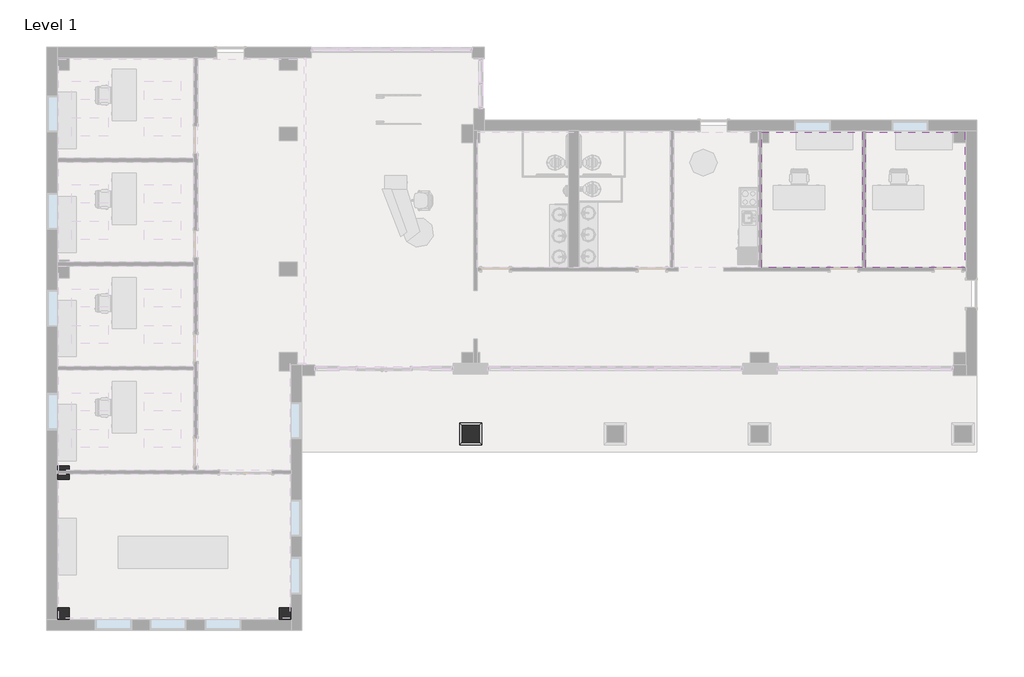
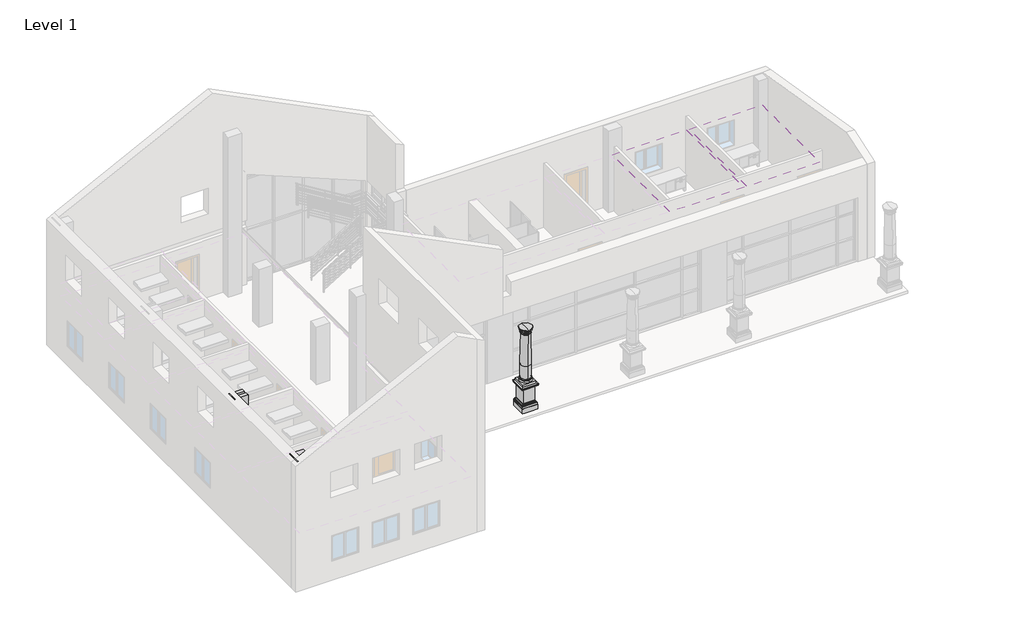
# One storey, part 4 of 8: 4 columns, 2 coverings.
"""IFC4 building model written with IfcOpenShell, lengths in millimetres."""

import ifcopenshell
import ifcopenshell.guid

model = None  # the IFC model being written
_history = None  # IfcOwnerHistory: only IFC2X3 demands one
_inside = {}  # id of a spatial element -> (the spatial element, [elements in it])
_under = {}  # id of a project, library or spatial element -> (it, [spatial elements below it])
_declared = {}  # id of a project -> (the project, [libraries it declares])
_typed = {}  # id of a type object -> (the type object, [elements of that type])
_made_of = {}  # id of a material, layer set ... -> (it, [elements and type objects made of it])


def new_model(schema):
    """Start an empty IFC model of exactly this schema.

    Asked for "IFC4X3", IfcOpenShell would pick the latest addendum, in which some entities
    have other attributes; the version numbers below select the first issue.
    IFC2X3 requires an IfcOwnerHistory on every rooted entity: one is made here for all.
    """
    global model, _history
    if schema == "IFC4X3":
        model = ifcopenshell.file(schema_version=(4, 3, 0, 0))
    else:
        model = ifcopenshell.file(schema=schema)
    _inside.clear()
    _under.clear()
    _declared.clear()
    _typed.clear()
    _made_of.clear()
    _history = None
    if model.schema == "IFC2X3":
        org = make("IfcOrganization", Name="unknown")
        user = make(
            "IfcPersonAndOrganization",
            ThePerson=make("IfcPerson", FamilyName="unknown"),
            TheOrganization=org,
        )
        app = make(
            "IfcApplication",
            ApplicationDeveloper=org,
            Version="unknown",
            ApplicationFullName="unknown",
            ApplicationIdentifier="unknown",
        )
        _history = make(
            "IfcOwnerHistory",
            OwningUser=user,
            OwningApplication=app,
            ChangeAction="ADDED",
            CreationDate=0,
        )
    return model


def make(cls, **values):
    """One entity of the class cls with the attributes given. An attribute that is None is left unset."""
    return model.create_entity(
        cls, **{name: value for name, value in values.items() if value is not None}
    )


def rooted(cls, **values):
    """An entity with a GlobalId (a new one), such as an element, a storey or a relation."""
    return make(cls, GlobalId=ifcopenshell.guid.new(), OwnerHistory=_history, **values)


def si_unit(unit_type, name, prefix=None):
    """IfcSIUnit, for example si_unit("LENGTHUNIT", "METRE", prefix="MILLI")."""
    return make("IfcSIUnit", UnitType=unit_type, Prefix=prefix, Name=name)


def assignment(units):
    """IfcUnitAssignment: the units of a project."""
    return None if units is None else make("IfcUnitAssignment", Units=units)


def point(xyz):
    """IfcCartesianPoint."""
    return None if xyz is None else make("IfcCartesianPoint", Coordinates=xyz)


def direction(xyz):
    """IfcDirection."""
    return None if xyz is None else make("IfcDirection", DirectionRatios=xyz)


def frame(location, z_axis=None, x_axis=None):
    """IfcAxis2Placement3D, a coordinate frame: its origin and axes. An axis left out is left unset."""
    return make(
        "IfcAxis2Placement3D",
        Location=point(location),
        Axis=direction(z_axis),
        RefDirection=direction(x_axis),
    )


def origin():
    """The frame at (0, 0, 0) with its axes left unset."""
    return frame((0.0, 0.0, 0.0))


def place(relative_to, where):
    """IfcLocalPlacement: puts the frame where relative to a parent placement (None: the world)."""
    return make(
        "IfcLocalPlacement", PlacementRelTo=relative_to, RelativePlacement=where
    )


def context(
    kind, dimensions, precision=None, world=None, true_north=None, identifier=None
):
    """IfcGeometricRepresentationContext, for example the 3D "Model" context."""
    return make(
        "IfcGeometricRepresentationContext",
        ContextIdentifier=identifier,
        ContextType=kind,
        CoordinateSpaceDimension=dimensions,
        Precision=precision,
        WorldCoordinateSystem=world,
        TrueNorth=true_north,
    )


def project(units=None, contexts=None):
    """IfcProject with its units and contexts."""
    return rooted(
        "IfcProject",
        Name="project",
        RepresentationContexts=contexts,
        UnitsInContext=assignment(units),
    )


def spatial(cls, under=None, at=None, **own):
    """A site, building, storey or space (cls), placed at a placement, below another one or the project."""
    s = rooted(cls, ObjectPlacement=at, **own)
    if under is not None:
        _under.setdefault(under.id(), (under, []))[1].append(s)
    return s


def polyline(points):
    """IfcPolyline through the points."""
    return make("IfcPolyline", Points=[point(p) for p in points])


def circle_curve(where, radius):
    """IfcCircle in the frame where."""
    return make("IfcCircle", Position=where, Radius=radius)


def ellipse_curve(where, semi_axis1, semi_axis2):
    """IfcEllipse in the frame where."""
    return make(
        "IfcEllipse", Position=where, SemiAxis1=semi_axis1, SemiAxis2=semi_axis2
    )


def trimmed(basis, trim1, trim2, sense, master):
    """IfcTrimmedCurve: the piece of a basis curve between two trims."""
    return make(
        "IfcTrimmedCurve",
        BasisCurve=basis,
        Trim1=trim1,
        Trim2=trim2,
        SenseAgreement=sense,
        MasterRepresentation=master,
    )


def outline(outer, holes=None, kind="AREA"):
    """IfcArbitraryClosedProfileDef: a profile drawn as a closed curve; with holes, ...WithVoids."""
    if holes is None:
        return make("IfcArbitraryClosedProfileDef", ProfileType=kind, OuterCurve=outer)
    return make(
        "IfcArbitraryProfileDefWithVoids",
        ProfileType=kind,
        OuterCurve=outer,
        InnerCurves=holes,
    )


def extrude(swept, where, along, depth):
    """IfcExtrudedAreaSolid: the profile swept, set in the frame where, extruded along a direction by depth."""
    return make(
        "IfcExtrudedAreaSolid",
        SweptArea=swept,
        Position=where,
        ExtrudedDirection=direction(along),
        Depth=depth,
    )


def faces_of(points, faces, orient=None, outer=None):
    """IfcFace entities. A face is a list of loops; a loop is a list of indices into points, from 0.

    orient and outer hold one flag for each loop. By default every Orientation is true, the
    first loop of a face is its IfcFaceOuterBound and the others are IfcFaceBound.
    """
    made = []
    for i, loops in enumerate(faces):
        bounds = []
        for j, loop in enumerate(loops):
            is_outer = j == 0 if outer is None else outer[i][j]
            bounds.append(
                make(
                    "IfcFaceOuterBound" if is_outer else "IfcFaceBound",
                    Bound=make("IfcPolyLoop", Polygon=[points[k] for k in loop]),
                    Orientation=True if orient is None else orient[i][j],
                )
            )
        made.append(make("IfcFace", Bounds=bounds))
    return made


def faceted_brep(points, faces, orient=None, outer=None, voids=None):
    """IfcFacetedBrep: a solid bounded by flat faces; with voids (closed shells), ...WithVoids."""
    shared = [point(p) for p in points]
    hull = make("IfcClosedShell", CfsFaces=faces_of(shared, faces, orient, outer))
    if voids is None:
        return make("IfcFacetedBrep", Outer=hull)
    return make(
        "IfcFacetedBrepWithVoids",
        Outer=hull,
        Voids=[
            make(cls, CfsFaces=faces_of(shared, fs, o, b)) for cls, fs, o, b in voids
        ],
    )


def shape(context_of_items, identifier, shape_type, items):
    """IfcShapeRepresentation: the items that make up one representation, for example the "Body"."""
    return make(
        "IfcShapeRepresentation",
        ContextOfItems=context_of_items,
        RepresentationIdentifier=identifier,
        RepresentationType=shape_type,
        Items=items,
    )


def made_of(thing, what):
    """Note that an element or type object is made of a material, layer set ...; save() writes the relation."""
    if what is not None:
        _made_of.setdefault(what.id(), (what, []))[1].append(thing)
    return thing


def element(
    cls,
    number,
    at=None,
    inside=None,
    cuts=None,
    type_object=None,
    material=None,
    context=None,
    identifier="Body",
    shape_type=None,
    held_by="IfcProductDefinitionShape",
    body=None,
    shapes=None,
    **own,
):
    """One element of the class cls, such as IfcWall. Its Tag is "e" and its number.

    at: its placement. inside: the storey or other place that contains it. cuts: it is an
    opening in that element (IfcRelVoidsElement). A single representation is given by context,
    identifier, shape_type and body (its items); several are given by shapes. held_by: the class
    of the entity that holds the representations. save() writes the other relations.
    """
    e = rooted(cls, Tag="e%d" % number, ObjectPlacement=at, **own)
    if body is not None:
        shapes = [shape(context, identifier, shape_type, body)]
    if shapes is not None:
        e.Representation = make(held_by, Representations=shapes)
    if inside is not None:
        _inside.setdefault(inside.id(), (inside, []))[1].append(e)
    if cuts is not None:
        rooted(
            "IfcRelVoidsElement", RelatingBuildingElement=cuts, RelatedOpeningElement=e
        )
    if type_object is not None:
        _typed.setdefault(type_object.id(), (type_object, []))[1].append(e)
    return made_of(e, material)


def aggregate(whole, parts):
    """IfcRelAggregates: a whole, such as a stair, and the parts it consists of."""
    return rooted("IfcRelAggregates", RelatingObject=whole, RelatedObjects=parts)


def save(model, path):
    """Write the relations noted so far, then the file.

    IfcRelAggregates (storeys below a building ...), IfcRelContainedInSpatialStructure (elements
    in a storey), IfcRelDefinesByType, IfcRelAssociatesMaterial and IfcRelDeclares: one each for
    every whole, place, type object, material and project.
    """
    for whole, parts in _under.values():
        aggregate(whole, parts)
    for where, things in _inside.values():
        rooted(
            "IfcRelContainedInSpatialStructure",
            RelatedElements=things,
            RelatingStructure=where,
        )
    for kind, things in _typed.values():
        rooted("IfcRelDefinesByType", RelatedObjects=things, RelatingType=kind)
    for what, things in _made_of.values():
        rooted("IfcRelAssociatesMaterial", RelatedObjects=things, RelatingMaterial=what)
    for by, libraries in _declared.values():
        rooted("IfcRelDeclares", RelatingContext=by, RelatedDefinitions=libraries)
    model.write(path)


def plane_surface(at):
    """IfcPlane: the flat surface through the origin of the frame at, square to its z axis."""
    return make("IfcPlane", Position=at)


def cylinder_surface(at, radius):
    """IfcCylindricalSurface: all points at the distance radius from the z axis of the frame at."""
    return make("IfcCylindricalSurface", Position=at, Radius=radius)


def revolved_surface(curve, axis_point, axis_direction):
    """IfcSurfaceOfRevolution: the curve turned about the line through axis_point along axis_direction."""
    return make(
        "IfcSurfaceOfRevolution",
        SweptCurve=make("IfcArbitraryOpenProfileDef", ProfileType="CURVE", Curve=curve),
        AxisPosition=make("IfcAxis1Placement", Location=point(axis_point), Axis=direction(axis_direction)),
    )


def advanced_brep(points, edges, surfaces, faces):
    """IfcAdvancedBrep: a solid bounded by faces that lie on surfaces and meet in shared edges.

    An edge is (start, end): straight between two places in points (the first is 0);
    or (start, end, curve); or (start, end, curve, False) where it runs against its curve.
    A face is (place in surfaces, loops), or (place, loops, False) where it looks against
    its surface's normal. A loop lists edges by number (the first is 1), with a minus sign
    where the edge is run from its end to its start. The first loop is the outer one.
    """
    corners = [point(p) for p in points]
    vertices = [make("IfcVertexPoint", VertexGeometry=c) for c in corners]
    made = []
    for start, end, *more in edges:
        made.append(
            make(
                "IfcEdgeCurve",
                EdgeStart=vertices[start],
                EdgeEnd=vertices[end],
                EdgeGeometry=more[0] if more else make("IfcPolyline", Points=[corners[start], corners[end]]),
                SameSense=more[1] if len(more) > 1 else True,
            )
        )
    hull = []
    for where, loops, *sense in faces:
        bounds = []
        for j, loop in enumerate(loops):
            ring = [make("IfcOrientedEdge", EdgeElement=made[abs(k) - 1], Orientation=k > 0) for k in loop]
            bounds.append(
                make(
                    "IfcFaceOuterBound" if j == 0 else "IfcFaceBound",
                    Bound=make("IfcEdgeLoop", EdgeList=ring),
                    Orientation=True,
                )
            )
        hull.append(make("IfcAdvancedFace", Bounds=bounds, FaceSurface=surfaces[where], SameSense=sense[0] if sense else True))
    return make("IfcAdvancedBrep", Outer=make("IfcClosedShell", CfsFaces=hull))


model = new_model("IFC4")

# Units and contexts
model_context = context("Model", 3, world=origin())
ifc_project = project(units=[si_unit("LENGTHUNIT", "METRE", prefix="MILLI")], contexts=[model_context])

# Site, building, storey
site = spatial("IfcSite", under=ifc_project)
building = spatial("IfcBuilding", under=site)
storey = spatial("IfcBuildingStorey", under=building, Name="Level 1", Elevation=0.0)

# Columns
placement = place(None, origin())
element("IfcColumn", 1, ObjectType="Doric Column : 16'  Height (10 2/3 x Dia.)", at=placement, inside=storey, context=model_context, shape_type="SolidModel", body=[
    extrude(outline(polyline([(529.1733448, -1720.0769576), (529.1733448, -2297.9269576), (-48.6766552, -2297.9269576), (-48.6766552, -1720.0769576), (529.1733448, -1720.0769576)])), frame((0.0, 0.0, 1117.6), z_axis=(0.0, 0.0, 1.0), x_axis=(1.0, 0.0, 0.0)), (0.0, 0.0, 1.0), 107.95),
    faceted_brep([(11.6483448, -2237.6019576, 1117.6), (-131.2266552, -2380.4769576, 1117.6), (611.7233448, -2380.4769576, 1117.6), (468.8483448, -2237.6019576, 1117.6), (11.6483448, -2237.6019576, 1003.3), (468.8483448, -2237.6019576, 1003.3), (-59.6345723, -2308.8848746, 1003.3), (540.1312619, -2308.8848746, 1003.3), (-93.1266552, -2342.3769576, 1028.7), (573.6233448, -2342.3769576, 1028.7), (-118.5266552, -2367.7769576, 1028.7), (599.0233448, -2367.7769576, 1028.7), (-118.5266552, -2367.7769576, 1092.2), (599.0233448, -2367.7769576, 1092.2), (-131.2266552, -2380.4769576, 1092.2), (611.7233448, -2380.4769576, 1092.2), (611.7233448, -1637.5269576, 1117.6), (468.8483448, -1780.4019576, 1117.6), (468.8483448, -1780.4019576, 1003.3), (540.1312619, -1709.1190405, 1003.3), (573.6233448, -1675.6269576, 1028.7), (599.0233448, -1650.2269576, 1028.7), (599.0233448, -1650.2269576, 1092.2), (611.7233448, -1637.5269576, 1092.2), (-131.2266552, -1637.5269576, 1117.6), (11.6483448, -1780.4019576, 1117.6), (11.6483448, -1780.4019576, 1003.3), (-59.6345723, -1709.1190405, 1003.3), (-93.1266552, -1675.6269576, 1028.7), (-118.5266552, -1650.2269576, 1028.7), (-118.5266552, -1650.2269576, 1092.2), (-131.2266552, -1637.5269576, 1092.2)], [[[0, 1, 2, 3]], [[4, 0, 3, 5]], [[6, 4, 5, 7]], [[8, 6, 7, 9]], [[10, 8, 9, 11]], [[12, 10, 11, 13]], [[14, 12, 13, 15]], [[1, 14, 15, 2]], [[3, 2, 16, 17]], [[5, 3, 17, 18]], [[7, 5, 18, 19]], [[9, 7, 19, 20]], [[11, 9, 20, 21]], [[13, 11, 21, 22]], [[15, 13, 22, 23]], [[2, 15, 23, 16]], [[17, 16, 24, 25]], [[18, 17, 25, 26]], [[19, 18, 26, 27]], [[20, 19, 27, 28]], [[21, 20, 28, 29]], [[22, 21, 29, 30]], [[23, 22, 30, 31]], [[16, 23, 31, 24]], [[25, 24, 1, 0]], [[26, 25, 0, 4]], [[27, 26, 4, 6]], [[28, 27, 6, 8]], [[29, 28, 8, 10]], [[30, 29, 10, 12]], [[31, 30, 12, 14]], [[24, 31, 14, 1]]]),
    advanced_brep(
    [(240.2483448, -2256.6519576, 1358.9), (240.2483448, -1761.3519576, 1358.9), (240.2483448, -1780.4019576, 1377.95), (240.2483448, -2237.6019576, 1377.95), (240.2483448, -1780.4019576, 1989.5041667), (240.2483448, -2237.6019576, 1989.5041667), (240.2483448, -2256.6519576, 1339.85), (240.2483448, -1761.3519576, 1339.85), (240.2483448, -2256.6519576, 1308.1), (240.2483448, -1761.3519576, 1308.1), (240.2483448, -2256.6519576, 1225.55), (240.2483448, -1761.3519576, 1225.55), (240.2483448, -2009.0019576, 1225.55), (240.2483448, -1808.9769576, 3479.3125), (240.2483448, -2209.0269576, 3479.3125), (240.2483448, -2301.1019576, 3714.2625601), (240.2483448, -1716.9019576, 3714.2625601), (240.2483448, -1716.9019576, 3733.3125), (240.2483448, -2301.1019576, 3733.3125), (240.2483448, -2009.0019576, 3733.3125), (240.2483448, -2282.0518974, 3695.2125), (240.2483448, -1735.9520177, 3695.2125), (240.2483448, -2278.8769576, 3695.2125), (240.2483448, -1739.1269576, 3695.2125), (240.2483448, -2278.8769576, 3644.4125), (240.2483448, -1739.1269576, 3644.4125), (240.2483448, -2272.5269576, 3644.4125), (240.2483448, -1745.4769576, 3644.4125), (240.2483448, -2228.0769576, 3599.9625), (240.2483448, -1789.9269576, 3599.9625), (240.2483448, -2228.0769576, 3580.9125), (240.2483448, -1789.9269576, 3580.9125), (240.2483448, -2209.0269576, 3580.9125), (240.2483448, -1808.9769576, 3580.9125), (240.2483448, -2209.0269576, 3498.3625), (240.2483448, -1808.9769576, 3498.3625), (240.2483448, -2228.0769576, 3498.3625), (240.2483448, -1789.9269576, 3498.3625), (240.2483448, -2228.0769576, 3479.3125), (240.2483448, -1789.9269576, 3479.3125)],
    [
        (0, 1, circle_curve(frame((240.2483448, -2009.0019576, 1358.9), z_axis=(0.0, 0.0, 1.0), x_axis=(0.0, 1.0, 0.0)), 247.65)),
        (1, 2, circle_curve(frame((240.2483448, -1761.3519576, 1377.95), z_axis=(-1.0, 0.0, 0.0), x_axis=(0.0, -1.0, 0.0)), 19.05)),
        (2, 3, circle_curve(frame((240.2483448, -2009.0019576, 1377.95), z_axis=(0.0, 0.0, -1.0), x_axis=(0.0, 1.0, 0.0)), 228.6)),
        (3, 0, circle_curve(frame((240.2483448, -2256.6519576, 1377.95), z_axis=(-1.0, 0.0, 0.0), x_axis=(0.0, 1.0, 0.0)), 19.05)),
        (2, 4),
        (4, 5, circle_curve(frame((240.2483448, -2009.0019576, 1989.5041667), z_axis=(0.0, 0.0, -1.0), x_axis=(0.0, 1.0, 0.0)), 228.6)),
        (5, 3),
        (2, 3, circle_curve(frame((240.2483448, -2009.0019576, 1377.95), z_axis=(0.0, 0.0, 1.0), x_axis=(0.0, 1.0, 0.0)), 228.6)),
        (5, 4, circle_curve(frame((240.2483448, -2009.0019576, 1989.5041667), z_axis=(0.0, 0.0, -1.0), x_axis=(0.0, 1.0, 0.0)), 228.6)),
        (1, 0, circle_curve(frame((240.2483448, -2009.0019576, 1358.9), z_axis=(0.0, 0.0, 1.0), x_axis=(0.0, 1.0, 0.0)), 247.65)),
        (6, 7, circle_curve(frame((240.2483448, -2009.0019576, 1339.85), z_axis=(0.0, 0.0, 1.0), x_axis=(0.0, 1.0, 0.0)), 247.65)),
        (7, 1),
        (0, 6),
        (7, 6, circle_curve(frame((240.2483448, -2009.0019576, 1339.85), z_axis=(0.0, 0.0, 1.0), x_axis=(0.0, 1.0, 0.0)), 247.65)),
        (8, 9, circle_curve(frame((240.2483448, -2009.0019576, 1308.1), z_axis=(0.0, 0.0, 1.0), x_axis=(0.0, 1.0, 0.0)), 247.65)),
        (9, 7, circle_curve(frame((240.2483448, -1761.3519576, 1323.975), z_axis=(1.0, 0.0, 0.0), x_axis=(0.0, -1.0, 0.0)), 15.875)),
        (6, 8, circle_curve(frame((240.2483448, -2256.6519576, 1323.975), z_axis=(1.0, 0.0, 0.0), x_axis=(0.0, 1.0, 0.0)), 15.875)),
        (9, 8, circle_curve(frame((240.2483448, -2009.0019576, 1308.1), z_axis=(0.0, 0.0, 1.0), x_axis=(0.0, 1.0, 0.0)), 247.65)),
        (10, 11, circle_curve(frame((240.2483448, -2009.0019576, 1225.55), z_axis=(0.0, 0.0, 1.0), x_axis=(0.0, 1.0, 0.0)), 247.65)),
        (11, 9, circle_curve(frame((240.2483448, -1761.3519576, 1266.825), z_axis=(1.0, 0.0, 0.0), x_axis=(0.0, -1.0, 0.0)), 41.275)),
        (8, 10, circle_curve(frame((240.2483448, -2256.6519576, 1266.825), z_axis=(1.0, 0.0, 0.0), x_axis=(0.0, 1.0, 0.0)), 41.275)),
        (11, 10, circle_curve(frame((240.2483448, -2009.0019576, 1225.55), z_axis=(0.0, 0.0, 1.0), x_axis=(0.0, 1.0, 0.0)), 247.65)),
        (12, 11),
        (10, 12),
        (4, 13),
        (13, 14, circle_curve(frame((240.2483448, -2009.0019576, 3479.3125), z_axis=(0.0, 0.0, -1.0), x_axis=(0.0, 1.0, 0.0)), 200.025)),
        (14, 5),
        (14, 13, circle_curve(frame((240.2483448, -2009.0019576, 3479.3125), z_axis=(0.0, 0.0, -1.0), x_axis=(0.0, 1.0, 0.0)), 200.025)),
        (15, 16, circle_curve(frame((240.2483448, -2009.0019576, 3714.2625601), z_axis=(0.0, 0.0, 1.0), x_axis=(0.0, 1.0, 0.0)), 292.1)),
        (16, 17),
        (17, 18, circle_curve(frame((240.2483448, -2009.0019576, 3733.3125), z_axis=(0.0, 0.0, -1.0), x_axis=(0.0, 1.0, 0.0)), 292.1)),
        (18, 15),
        (17, 19),
        (19, 18),
        (17, 18, circle_curve(frame((240.2483448, -2009.0019576, 3733.3125), z_axis=(0.0, 0.0, 1.0), x_axis=(0.0, 1.0, 0.0)), 292.1)),
        (16, 15, circle_curve(frame((240.2483448, -2009.0019576, 3714.2625601), z_axis=(0.0, 0.0, 1.0), x_axis=(0.0, 1.0, 0.0)), 292.1)),
        (20, 21, circle_curve(frame((240.2483448, -2009.0019576, 3695.2125), z_axis=(0.0, 0.0, 1.0), x_axis=(0.0, 1.0, 0.0)), 273.0499399)),
        (21, 16, circle_curve(frame((240.2483448, -1716.9019576, 3695.2125), z_axis=(-1.0, 0.0, 0.0), x_axis=(0.0, -1.0, 0.0)), 19.0500601)),
        (15, 20, circle_curve(frame((240.2483448, -2301.1019576, 3695.2125), z_axis=(-1.0, 0.0, 0.0), x_axis=(0.0, 1.0, 0.0)), 19.0500601)),
        (21, 20, circle_curve(frame((240.2483448, -2009.0019576, 3695.2125), z_axis=(0.0, 0.0, 1.0), x_axis=(0.0, 1.0, 0.0)), 273.0499399)),
        (22, 23, circle_curve(frame((240.2483448, -2009.0019576, 3695.2125), z_axis=(0.0, 0.0, 1.0), x_axis=(0.0, 1.0, 0.0)), 269.875)),
        (23, 21),
        (20, 22),
        (23, 22, circle_curve(frame((240.2483448, -2009.0019576, 3695.2125), z_axis=(0.0, 0.0, 1.0), x_axis=(0.0, 1.0, 0.0)), 269.875)),
        (24, 25, circle_curve(frame((240.2483448, -2009.0019576, 3644.4125), z_axis=(0.0, 0.0, 1.0), x_axis=(0.0, 1.0, 0.0)), 269.875)),
        (25, 23),
        (22, 24),
        (25, 24, circle_curve(frame((240.2483448, -2009.0019576, 3644.4125), z_axis=(0.0, 0.0, 1.0), x_axis=(0.0, 1.0, 0.0)), 269.875)),
        (26, 27, circle_curve(frame((240.2483448, -2009.0019576, 3644.4125), z_axis=(0.0, 0.0, 1.0), x_axis=(0.0, 1.0, 0.0)), 263.525)),
        (27, 25),
        (24, 26),
        (27, 26, circle_curve(frame((240.2483448, -2009.0019576, 3644.4125), z_axis=(0.0, 0.0, 1.0), x_axis=(0.0, 1.0, 0.0)), 263.525)),
        (28, 29, circle_curve(frame((240.2483448, -2009.0019576, 3599.9625), z_axis=(0.0, 0.0, 1.0), x_axis=(0.0, 1.0, 0.0)), 219.075)),
        (29, 27, circle_curve(frame((240.2483448, -1789.9269576, 3644.4125), z_axis=(1.0, 0.0, 0.0), x_axis=(0.0, -1.0, 0.0)), 44.45)),
        (26, 28, circle_curve(frame((240.2483448, -2228.0769576, 3644.4125), z_axis=(1.0, 0.0, 0.0), x_axis=(0.0, 1.0, 0.0)), 44.45)),
        (29, 28, circle_curve(frame((240.2483448, -2009.0019576, 3599.9625), z_axis=(0.0, 0.0, 1.0), x_axis=(0.0, 1.0, 0.0)), 219.075)),
        (30, 31, circle_curve(frame((240.2483448, -2009.0019576, 3580.9125), z_axis=(0.0, 0.0, 1.0), x_axis=(0.0, 1.0, 0.0)), 219.075)),
        (31, 29, circle_curve(frame((240.2483448, -1789.9269576, 3590.4375), z_axis=(1.0, 0.0, 0.0), x_axis=(0.0, -1.0, 0.0)), 9.525)),
        (28, 30, circle_curve(frame((240.2483448, -2228.0769576, 3590.4375), z_axis=(1.0, 0.0, 0.0), x_axis=(0.0, 1.0, 0.0)), 9.525)),
        (31, 30, circle_curve(frame((240.2483448, -2009.0019576, 3580.9125), z_axis=(0.0, 0.0, 1.0), x_axis=(0.0, 1.0, 0.0)), 219.075)),
        (32, 33, circle_curve(frame((240.2483448, -2009.0019576, 3580.9125), z_axis=(0.0, 0.0, 1.0), x_axis=(0.0, 1.0, 0.0)), 200.025)),
        (33, 31),
        (30, 32),
        (33, 32, circle_curve(frame((240.2483448, -2009.0019576, 3580.9125), z_axis=(0.0, 0.0, 1.0), x_axis=(0.0, 1.0, 0.0)), 200.025)),
        (34, 35, circle_curve(frame((240.2483448, -2009.0019576, 3498.3625), z_axis=(0.0, 0.0, 1.0), x_axis=(0.0, 1.0, 0.0)), 200.025)),
        (35, 33),
        (32, 34),
        (35, 34, circle_curve(frame((240.2483448, -2009.0019576, 3498.3625), z_axis=(0.0, 0.0, 1.0), x_axis=(0.0, 1.0, 0.0)), 200.025)),
        (36, 37, circle_curve(frame((240.2483448, -2009.0019576, 3498.3625), z_axis=(0.0, 0.0, 1.0), x_axis=(0.0, 1.0, 0.0)), 219.075)),
        (37, 35),
        (34, 36),
        (37, 36, circle_curve(frame((240.2483448, -2009.0019576, 3498.3625), z_axis=(0.0, 0.0, 1.0), x_axis=(0.0, 1.0, 0.0)), 219.075)),
        (38, 39, circle_curve(frame((240.2483448, -2009.0019576, 3479.3125), z_axis=(0.0, 0.0, 1.0), x_axis=(0.0, 1.0, 0.0)), 219.075)),
        (39, 37, circle_curve(frame((240.2483448, -1789.9269576, 3488.8375), z_axis=(1.0, 0.0, 0.0), x_axis=(0.0, -1.0, 0.0)), 9.525)),
        (36, 38, circle_curve(frame((240.2483448, -2228.0769576, 3488.8375), z_axis=(1.0, 0.0, 0.0), x_axis=(0.0, 1.0, 0.0)), 9.525)),
        (39, 38, circle_curve(frame((240.2483448, -2009.0019576, 3479.3125), z_axis=(0.0, 0.0, 1.0), x_axis=(0.0, 1.0, 0.0)), 219.075)),
        (13, 39),
        (38, 14),
    ],
    [
        revolved_surface(trimmed(ellipse_curve(frame((240.2483448, -1761.3519576, 1377.95), z_axis=(1.0, 0.0, 0.0), x_axis=(0.0, -1.0, 0.0)), 19.05, 19.05), [point((240.2483448, -1780.4019576, 1377.95))], [point((240.2483448, -1761.3519576, 1358.9))], True, "CARTESIAN"), (240.2483448, -2009.0019576, 3733.3125), (0.0, 0.0, -1.0)),
        cylinder_surface(frame((240.2483448, -2009.0019576, 3733.3125), z_axis=(0.0, 0.0, -1.0), x_axis=(0.0, 1.0, 0.0)), 228.6),
        cylinder_surface(frame((240.2483448, -2009.0019576, 3733.3125), z_axis=(0.0, 0.0, -1.0), x_axis=(0.0, 1.0, 0.0)), 247.65),
        revolved_surface(trimmed(ellipse_curve(frame((240.2483448, -1761.3519576, 1323.975), z_axis=(-1.0, 0.0, 0.0), x_axis=(0.0, -1.0, 0.0)), 15.875, 15.875), [point((240.2483448, -1761.3519576, 1339.85))], [point((240.2483448, -1761.3519576, 1308.1))], True, "CARTESIAN"), (240.2483448, -2009.0019576, 3733.3125), (0.0, 0.0, -1.0)),
        revolved_surface(trimmed(ellipse_curve(frame((240.2483448, -1761.3519576, 1266.825), z_axis=(-1.0, 0.0, 0.0), x_axis=(0.0, -1.0, 0.0)), 41.275, 41.275), [point((240.2483448, -1761.3519576, 1308.1))], [point((240.2483448, -1761.3519576, 1225.55))], True, "CARTESIAN"), (240.2483448, -2009.0019576, 3733.3125), (0.0, 0.0, -1.0)),
        plane_surface(frame((240.2483448, -2009.0019576, 1225.55), z_axis=(0.0, 0.0, -1.0), x_axis=(0.0, 1.0, 0.0))),
        revolved_surface(polyline([(240.2483448, -1808.9769576, 3479.3125), (240.2483448, -1780.4019576, 1989.5041667)]), (240.2483448, -2009.0019576, 3733.3125), (0.0, 0.0, -1.0)),
        cylinder_surface(frame((240.2483448, -2009.0019576, 3733.3125), z_axis=(0.0, 0.0, -1.0), x_axis=(0.0, 1.0, 0.0)), 292.1),
        plane_surface(frame((240.2483448, -2009.0019576, 3733.3125), z_axis=(0.0, 0.0, 1.0), x_axis=(0.0, 1.0, 0.0))),
        revolved_surface(trimmed(ellipse_curve(frame((240.2483448, -1716.9019576, 3695.2125), z_axis=(1.0, 0.0, 0.0), x_axis=(0.0, -1.0, 0.0)), 19.0500601, 19.0500601), [point((240.2483448, -1716.9019576, 3714.2625601))], [point((240.2483448, -1735.9520177, 3695.2125))], True, "CARTESIAN"), (240.2483448, -2009.0019576, 3733.3125), (0.0, 0.0, -1.0)),
        plane_surface(frame((240.2483448, -2009.0019576, 3695.2125), z_axis=(0.0, 0.0, -1.0), x_axis=(0.0, 1.0, 0.0))),
        cylinder_surface(frame((240.2483448, -2009.0019576, 3733.3125), z_axis=(0.0, 0.0, -1.0), x_axis=(0.0, 1.0, 0.0)), 269.875),
        plane_surface(frame((240.2483448, -2009.0019576, 3644.4125), z_axis=(0.0, 0.0, -1.0), x_axis=(0.0, 1.0, 0.0))),
        revolved_surface(trimmed(ellipse_curve(frame((240.2483448, -1789.9269576, 3644.4125), z_axis=(-1.0, 0.0, 0.0), x_axis=(0.0, -1.0, 0.0)), 44.45, 44.45), [point((240.2483448, -1745.4769576, 3644.4125))], [point((240.2483448, -1789.9269576, 3599.9625))], True, "CARTESIAN"), (240.2483448, -2009.0019576, 3733.3125), (0.0, 0.0, -1.0)),
        revolved_surface(trimmed(ellipse_curve(frame((240.2483448, -1789.9269576, 3590.4375), z_axis=(-1.0, 0.0, 0.0), x_axis=(0.0, -1.0, 0.0)), 9.525, 9.525), [point((240.2483448, -1789.9269576, 3599.9625))], [point((240.2483448, -1789.9269576, 3580.9125))], True, "CARTESIAN"), (240.2483448, -2009.0019576, 3733.3125), (0.0, 0.0, -1.0)),
        plane_surface(frame((240.2483448, -2009.0019576, 3580.9125), z_axis=(0.0, 0.0, -1.0), x_axis=(0.0, 1.0, 0.0))),
        cylinder_surface(frame((240.2483448, -2009.0019576, 3733.3125), z_axis=(0.0, 0.0, -1.0), x_axis=(0.0, 1.0, 0.0)), 200.025),
        plane_surface(frame((240.2483448, -2009.0019576, 3498.3625), z_axis=(0.0, 0.0, 1.0), x_axis=(0.0, 1.0, 0.0))),
        revolved_surface(trimmed(ellipse_curve(frame((240.2483448, -1789.9269576, 3488.8375), z_axis=(-1.0, 0.0, 0.0), x_axis=(0.0, -1.0, 0.0)), 9.525, 9.525), [point((240.2483448, -1789.9269576, 3498.3625))], [point((240.2483448, -1789.9269576, 3479.3125))], True, "CARTESIAN"), (240.2483448, -2009.0019576, 3733.3125), (0.0, 0.0, -1.0)),
        plane_surface(frame((240.2483448, -2009.0019576, 3479.3125), z_axis=(0.0, 0.0, -1.0), x_axis=(0.0, 1.0, 0.0))),
    ],
    [
        (0, [[1, 2, 3, 4]]),
        (1, [[-3, 5, 6, 7]]),
        (1, [[8, -7, 9, -5]]),
        (0, [[10, -4, -8, -2]]),
        (2, [[11, 12, -1, 13]]),
        (2, [[14, -13, -10, -12]]),
        (3, [[15, 16, -11, 17]]),
        (3, [[18, -17, -14, -16]]),
        (4, [[19, 20, -15, 21]]),
        (4, [[22, -21, -18, -20]]),
        (5, [[23, -19, 24]]),
        (5, [[-24, -22, -23]]),
        (6, [[-6, 25, 26, 27]]),
        (6, [[-9, -27, 28, -25]]),
        (7, [[29, 30, 31, 32]]),
        (8, [[-31, 33, 34]]),
        (8, [[35, -34, -33]]),
        (7, [[36, -32, -35, -30]]),
        (9, [[37, 38, -29, 39]]),
        (9, [[40, -39, -36, -38]]),
        (10, [[41, 42, -37, 43]]),
        (10, [[44, -43, -40, -42]]),
        (11, [[45, 46, -41, 47]]),
        (11, [[48, -47, -44, -46]]),
        (12, [[49, 50, -45, 51]]),
        (12, [[52, -51, -48, -50]]),
        (13, [[53, 54, -49, 55]]),
        (13, [[56, -55, -52, -54]]),
        (14, [[57, 58, -53, 59]]),
        (14, [[60, -59, -56, -58]]),
        (15, [[61, 62, -57, 63]]),
        (15, [[64, -63, -60, -62]]),
        (16, [[65, 66, -61, 67]]),
        (16, [[68, -67, -64, -66]]),
        (17, [[69, 70, -65, 71]]),
        (17, [[72, -71, -68, -70]]),
        (18, [[73, 74, -69, 75]]),
        (18, [[76, -75, -72, -74]]),
        (19, [[-26, 77, -73, 78]]),
        (19, [[-28, -78, -76, -77]]),
    ],
),
    advanced_brep(
    [(585.6934911, -1663.5568112, -101.6), (585.6934911, -1663.5568112, 127.0), (585.6934911, -2354.4471039, 127.0), (585.6934911, -2354.4471039, -101.6), (468.8483448, -1780.4019576, -101.6), (468.8483448, -2237.6019576, -101.6), (468.8483448, -1780.4019576, 317.5), (468.8483448, -2237.6019576, 317.5), (503.1434911, -1746.1068112, 317.5), (503.1434911, -2271.8971039, 317.5), (522.1934911, -1727.0568112, 298.45), (522.1934911, -2290.9471039, 298.45), (522.1934911, -1727.0568112, 279.4), (522.1934911, -2290.9471039, 279.4), (544.4184911, -1704.8318112, 257.175), (544.4184911, -2313.1721039, 257.175), (566.6434911, -1682.6068112, 234.95), (566.6434911, -2335.3971039, 234.95), (566.6434911, -1682.6068112, 215.9), (566.6434911, -2335.3971039, 215.9), (576.1684911, -1673.0818112, 215.9), (576.1684911, -2344.9221039, 215.9), (576.1684911, -1673.0818112, 127.0), (576.1684911, -2344.9221039, 127.0), (-105.1968015, -2354.4471039, 127.0), (-105.1968015, -2354.4471039, -101.6), (11.6483448, -2237.6019576, -101.6), (11.6483448, -2237.6019576, 317.5), (-22.6468015, -2271.8971039, 317.5), (-41.6968015, -2290.9471039, 298.45), (-41.6968015, -2290.9471039, 279.4), (-63.9218015, -2313.1721039, 257.175), (-86.1468015, -2335.3971039, 234.95), (-86.1468015, -2335.3971039, 215.9), (-95.6718015, -2344.9221039, 215.9), (-95.6718015, -2344.9221039, 127.0), (-105.1968015, -1663.5568112, 127.0), (-105.1968015, -1663.5568112, -101.6), (11.6483448, -1780.4019576, -101.6), (11.6483448, -1780.4019576, 317.5), (-22.6468015, -1746.1068112, 317.5), (-41.6968015, -1727.0568112, 298.45), (-41.6968015, -1727.0568112, 279.4), (-63.9218015, -1704.8318112, 257.175), (-86.1468015, -1682.6068112, 234.95), (-86.1468015, -1682.6068112, 215.9), (-95.6718015, -1673.0818112, 215.9), (-95.6718015, -1673.0818112, 127.0)],
    [
        (0, 1),
        (1, 2),
        (2, 3),
        (3, 0),
        (4, 0),
        (3, 5),
        (5, 4),
        (6, 4),
        (5, 7),
        (7, 6),
        (8, 6),
        (7, 9),
        (9, 8),
        (10, 8, ellipse_curve(frame((522.1934911, -1727.0568112, 317.5), z_axis=(-0.7071067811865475, 0.7071067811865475, 0.0), x_axis=(-0.7071067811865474, -0.7071067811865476, 0.0)), 26.9407684, 19.05)),
        (9, 11, ellipse_curve(frame((522.1934911, -2290.9471039, 317.5), z_axis=(-0.7071067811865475, -0.7071067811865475, 0.0), x_axis=(0.7071067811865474, -0.7071067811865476, 0.0)), 26.9407684, 19.05)),
        (11, 10),
        (12, 10),
        (11, 13),
        (13, 12),
        (14, 12, ellipse_curve(frame((522.1934911, -1727.0568112, 257.175), z_axis=(0.7071067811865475, -0.7071067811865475, 0.0), x_axis=(0.7071067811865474, 0.7071067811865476, 0.0)), 31.4308964, 22.225)),
        (13, 15, ellipse_curve(frame((522.1934911, -2290.9471039, 257.175), z_axis=(0.7071067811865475, 0.7071067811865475, 0.0), x_axis=(-0.7071067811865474, 0.7071067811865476, 0.0)), 31.4308964, 22.225)),
        (15, 14),
        (16, 14, ellipse_curve(frame((566.6434911, -1682.6068112, 257.175), z_axis=(-0.7071067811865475, 0.7071067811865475, 0.0), x_axis=(-0.7071067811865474, -0.7071067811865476, 0.0)), 31.4308964, 22.225)),
        (15, 17, ellipse_curve(frame((566.6434911, -2335.3971039, 257.175), z_axis=(-0.7071067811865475, -0.7071067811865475, 0.0), x_axis=(0.7071067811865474, -0.7071067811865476, 0.0)), 31.4308964, 22.225)),
        (17, 16),
        (18, 16),
        (17, 19),
        (19, 18),
        (20, 18),
        (19, 21),
        (21, 20),
        (22, 20),
        (21, 23),
        (23, 22),
        (1, 22),
        (23, 2),
        (2, 24),
        (24, 25),
        (25, 3),
        (25, 26),
        (26, 5),
        (26, 27),
        (27, 7),
        (27, 28),
        (28, 9),
        (28, 29, ellipse_curve(frame((-41.6968015, -2290.9471039, 317.5), z_axis=(-0.7071067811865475, 0.7071067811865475, 0.0), x_axis=(-0.7071067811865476, -0.7071067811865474, 0.0)), 26.9407684, 19.05)),
        (29, 11),
        (29, 30),
        (30, 13),
        (30, 31, ellipse_curve(frame((-41.6968015, -2290.9471039, 257.175), z_axis=(0.7071067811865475, -0.7071067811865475, 0.0), x_axis=(0.7071067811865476, 0.7071067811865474, 0.0)), 31.4308964, 22.225)),
        (31, 15),
        (31, 32, ellipse_curve(frame((-86.1468015, -2335.3971039, 257.175), z_axis=(-0.7071067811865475, 0.7071067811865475, 0.0), x_axis=(-0.7071067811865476, -0.7071067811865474, 0.0)), 31.4308964, 22.225)),
        (32, 17),
        (32, 33),
        (33, 19),
        (33, 34),
        (34, 21),
        (34, 35),
        (35, 23),
        (35, 24),
        (24, 36),
        (36, 37),
        (37, 25),
        (37, 38),
        (38, 26),
        (38, 39),
        (39, 27),
        (39, 40),
        (40, 28),
        (40, 41, ellipse_curve(frame((-41.6968015, -1727.0568112, 317.5), z_axis=(0.7071067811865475, 0.7071067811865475, 0.0), x_axis=(-0.7071067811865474, 0.7071067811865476, 0.0)), 26.9407684, 19.05)),
        (41, 29),
        (41, 42),
        (42, 30),
        (42, 43, ellipse_curve(frame((-41.6968015, -1727.0568112, 257.175), z_axis=(-0.7071067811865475, -0.7071067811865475, 0.0), x_axis=(0.7071067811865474, -0.7071067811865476, 0.0)), 31.4308964, 22.225)),
        (43, 31),
        (43, 44, ellipse_curve(frame((-86.1468015, -1682.6068112, 257.175), z_axis=(0.7071067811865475, 0.7071067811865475, 0.0), x_axis=(-0.7071067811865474, 0.7071067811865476, 0.0)), 31.4308964, 22.225)),
        (44, 32),
        (44, 45),
        (45, 33),
        (45, 46),
        (46, 34),
        (46, 47),
        (47, 35),
        (47, 36),
        (36, 1),
        (0, 37),
        (4, 38),
        (6, 39),
        (8, 40),
        (10, 41),
        (12, 42),
        (14, 43),
        (16, 44),
        (18, 45),
        (20, 46),
        (22, 47),
    ],
    [
        plane_surface(frame((585.6934911, -1663.5568112, 127.0), z_axis=(1.0, 0.0, 0.0), x_axis=(0.0, -1.0, 0.0))),
        plane_surface(frame((585.6934911, -1663.5568112, -101.6), z_axis=(0.0, 0.0, -1.0), x_axis=(0.0, -1.0, 0.0))),
        plane_surface(frame((468.8483448, -1780.4019576, -101.6), z_axis=(-1.0, 0.0, 0.0), x_axis=(0.0, -1.0, 0.0))),
        plane_surface(frame((468.8483448, -1780.4019576, 317.5), z_axis=(0.0, 0.0, 1.0), x_axis=(0.0, -1.0, 0.0))),
        revolved_surface(polyline([(541.2434910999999, -2309.9971039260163, 317.5), (541.2434910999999, -1708.0068111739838, 317.5)]), (522.1934911, -1650.5418844, 317.5), (0.0, -1.0, 0.0)),
        plane_surface(frame((522.1934911, -1727.0568112, 298.45), z_axis=(1.0, 0.0, 0.0), x_axis=(0.0, -1.0, 0.0))),
        cylinder_surface(frame((522.1934911, -1650.5418844, 257.175), z_axis=(0.0, 1.0, 0.0), x_axis=(1.0, 0.0, 0.0)), 22.225),
        revolved_surface(polyline([(588.8684911, -2357.622103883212, 257.175), (588.8684911, -1660.3818112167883, 257.175)]), (566.6434911, -1650.5418844, 257.175), (0.0, -1.0, 0.0)),
        plane_surface(frame((566.6434911, -1682.6068112, 234.95), z_axis=(1.0, 0.0, 0.0), x_axis=(0.0, -1.0, 0.0))),
        plane_surface(frame((566.6434911, -1682.6068112, 215.9), z_axis=(0.0, 0.0, 1.0), x_axis=(0.0, -1.0, 0.0))),
        plane_surface(frame((576.1684911, -1673.0818112, 215.9), z_axis=(1.0, 0.0, 0.0), x_axis=(0.0, -1.0, 0.0))),
        plane_surface(frame((576.1684911, -1673.0818112, 127.0), z_axis=(0.0, 0.0, 1.0), x_axis=(0.0, -1.0, 0.0))),
        plane_surface(frame((585.6934911, -2354.4471039, 127.0), z_axis=(0.0, -1.0, 0.0), x_axis=(-1.0, 0.0, 0.0))),
        plane_surface(frame((585.6934911, -2354.4471039, -101.6), z_axis=(0.0, 0.0, -1.0), x_axis=(-1.0, 0.0, 0.0))),
        plane_surface(frame((468.8483448, -2237.6019576, -101.6), z_axis=(0.0, 1.0, 0.0), x_axis=(-1.0, 0.0, 0.0))),
        plane_surface(frame((468.8483448, -2237.6019576, 317.5), z_axis=(0.0, 0.0, 1.0), x_axis=(-1.0, 0.0, 0.0))),
        revolved_surface(polyline([(-60.74680152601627, -2309.9971039, 317.5), (541.2434911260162, -2309.9971039, 317.5)]), (598.708418, -2290.9471039, 317.5), (-1.0, 0.0, 0.0)),
        plane_surface(frame((522.1934911, -2290.9471039, 298.45), z_axis=(0.0, -1.0, 0.0), x_axis=(-1.0, 0.0, 0.0))),
        cylinder_surface(frame((598.708418, -2290.9471039, 257.175), z_axis=(1.0, 0.0, 0.0), x_axis=(0.0, -1.0, 0.0)), 22.225),
        revolved_surface(polyline([(-108.37180148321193, -2357.6221038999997, 257.175), (588.8684910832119, -2357.6221038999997, 257.175)]), (598.708418, -2335.3971039, 257.175), (-1.0, 0.0, 0.0)),
        plane_surface(frame((566.6434911, -2335.3971039, 234.95), z_axis=(0.0, -1.0, 0.0), x_axis=(-1.0, 0.0, 0.0))),
        plane_surface(frame((566.6434911, -2335.3971039, 215.9), z_axis=(0.0, 0.0, 1.0), x_axis=(-1.0, 0.0, 0.0))),
        plane_surface(frame((576.1684911, -2344.9221039, 215.9), z_axis=(0.0, -1.0, 0.0), x_axis=(-1.0, 0.0, 0.0))),
        plane_surface(frame((576.1684911, -2344.9221039, 127.0), z_axis=(0.0, 0.0, 1.0), x_axis=(-1.0, 0.0, 0.0))),
        plane_surface(frame((-105.1968015, -2354.4471039, 127.0), z_axis=(-1.0, 0.0, 0.0), x_axis=(0.0, 1.0, 0.0))),
        plane_surface(frame((-105.1968015, -2354.4471039, -101.6), z_axis=(0.0, 0.0, -1.0), x_axis=(0.0, 1.0, 0.0))),
        plane_surface(frame((11.6483448, -2237.6019576, -101.6), z_axis=(1.0, 0.0, 0.0), x_axis=(0.0, 1.0, 0.0))),
        plane_surface(frame((11.6483448, -2237.6019576, 317.5), z_axis=(0.0, 0.0, 1.0), x_axis=(0.0, 1.0, 0.0))),
        revolved_surface(polyline([(-60.746801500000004, -1708.0068111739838, 317.5), (-60.746801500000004, -2309.9971039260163, 317.5)]), (-41.6968015, -2367.4620307, 317.5), (0.0, 1.0, 0.0)),
        plane_surface(frame((-41.6968015, -2290.9471039, 298.45), z_axis=(-1.0, 0.0, 0.0), x_axis=(0.0, 1.0, 0.0))),
        cylinder_surface(frame((-41.6968015, -2367.4620307, 257.175), z_axis=(0.0, -1.0, 0.0), x_axis=(-1.0, 0.0, 0.0)), 22.225),
        revolved_surface(polyline([(-108.3718015, -1660.3818112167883, 257.175), (-108.3718015, -2357.622103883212, 257.175)]), (-86.1468015, -2367.4620307, 257.175), (0.0, 1.0, 0.0)),
        plane_surface(frame((-86.1468015, -2335.3971039, 234.95), z_axis=(-1.0, 0.0, 0.0), x_axis=(0.0, 1.0, 0.0))),
        plane_surface(frame((-86.1468015, -2335.3971039, 215.9), z_axis=(0.0, 0.0, 1.0), x_axis=(0.0, 1.0, 0.0))),
        plane_surface(frame((-95.6718015, -2344.9221039, 215.9), z_axis=(-1.0, 0.0, 0.0), x_axis=(0.0, 1.0, 0.0))),
        plane_surface(frame((-95.6718015, -2344.9221039, 127.0), z_axis=(0.0, 0.0, 1.0), x_axis=(0.0, 1.0, 0.0))),
        plane_surface(frame((-105.1968015, -1663.5568112, 127.0), z_axis=(0.0, 1.0, 0.0), x_axis=(1.0, 0.0, 0.0))),
        plane_surface(frame((-105.1968015, -1663.5568112, -101.6), z_axis=(0.0, 0.0, -1.0), x_axis=(1.0, 0.0, 0.0))),
        plane_surface(frame((11.6483448, -1780.4019576, -101.6), z_axis=(0.0, -1.0, 0.0), x_axis=(1.0, 0.0, 0.0))),
        plane_surface(frame((11.6483448, -1780.4019576, 317.5), z_axis=(0.0, 0.0, 1.0), x_axis=(1.0, 0.0, 0.0))),
        revolved_surface(polyline([(541.2434911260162, -1708.0068112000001, 317.5), (-60.74680152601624, -1708.0068112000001, 317.5)]), (-118.2117283, -1727.0568112, 317.5), (1.0, 0.0, 0.0)),
        plane_surface(frame((-41.6968015, -1727.0568112, 298.45), z_axis=(0.0, 1.0, 0.0), x_axis=(1.0, 0.0, 0.0))),
        cylinder_surface(frame((-118.2117283, -1727.0568112, 257.175), z_axis=(-1.0, 0.0, 0.0), x_axis=(0.0, 1.0, 0.0)), 22.225),
        revolved_surface(polyline([(588.8684910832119, -1660.3818112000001, 257.175), (-108.37180148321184, -1660.3818112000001, 257.175)]), (-118.2117283, -1682.6068112, 257.175), (1.0, 0.0, 0.0)),
        plane_surface(frame((-86.1468015, -1682.6068112, 234.95), z_axis=(0.0, 1.0, 0.0), x_axis=(1.0, 0.0, 0.0))),
        plane_surface(frame((-86.1468015, -1682.6068112, 215.9), z_axis=(0.0, 0.0, 1.0), x_axis=(1.0, 0.0, 0.0))),
        plane_surface(frame((-95.6718015, -1673.0818112, 215.9), z_axis=(0.0, 1.0, 0.0), x_axis=(1.0, 0.0, 0.0))),
        plane_surface(frame((-95.6718015, -1673.0818112, 127.0), z_axis=(0.0, 0.0, 1.0), x_axis=(1.0, 0.0, 0.0))),
    ],
    [
        (0, [[1, 2, 3, 4]]),
        (1, [[5, -4, 6, 7]]),
        (2, [[8, -7, 9, 10]]),
        (3, [[11, -10, 12, 13]]),
        (4, [[14, -13, 15, 16]]),
        (5, [[17, -16, 18, 19]]),
        (6, [[20, -19, 21, 22]]),
        (7, [[23, -22, 24, 25]]),
        (8, [[26, -25, 27, 28]]),
        (9, [[29, -28, 30, 31]]),
        (10, [[32, -31, 33, 34]]),
        (11, [[35, -34, 36, -2]]),
        (12, [[-3, 37, 38, 39]]),
        (13, [[-6, -39, 40, 41]]),
        (14, [[-9, -41, 42, 43]]),
        (15, [[-12, -43, 44, 45]]),
        (16, [[-15, -45, 46, 47]]),
        (17, [[-18, -47, 48, 49]]),
        (18, [[-21, -49, 50, 51]]),
        (19, [[-24, -51, 52, 53]]),
        (20, [[-27, -53, 54, 55]]),
        (21, [[-30, -55, 56, 57]]),
        (22, [[-33, -57, 58, 59]]),
        (23, [[-36, -59, 60, -37]]),
        (24, [[-38, 61, 62, 63]]),
        (25, [[-40, -63, 64, 65]]),
        (26, [[-42, -65, 66, 67]]),
        (27, [[-44, -67, 68, 69]]),
        (28, [[-46, -69, 70, 71]]),
        (29, [[-48, -71, 72, 73]]),
        (30, [[-50, -73, 74, 75]]),
        (31, [[-52, -75, 76, 77]]),
        (32, [[-54, -77, 78, 79]]),
        (33, [[-56, -79, 80, 81]]),
        (34, [[-58, -81, 82, 83]]),
        (35, [[-60, -83, 84, -61]]),
        (36, [[-62, 85, -1, 86]]),
        (37, [[-64, -86, -5, 87]]),
        (38, [[-66, -87, -8, 88]]),
        (39, [[-68, -88, -11, 89]]),
        (40, [[-70, -89, -14, 90]]),
        (41, [[-72, -90, -17, 91]]),
        (42, [[-74, -91, -20, 92]]),
        (43, [[-76, -92, -23, 93]]),
        (44, [[-78, -93, -26, 94]]),
        (45, [[-80, -94, -29, 95]]),
        (46, [[-82, -95, -32, 96]]),
        (47, [[-84, -96, -35, -85]]),
    ],
),
    extrude(outline(polyline([(503.7733448, -1745.4769576), (503.7733448, -2272.5269576), (-23.2766552, -2272.5269576), (-23.2766552, -1745.4769576), (503.7733448, -1745.4769576)])), frame((0.0, 0.0, 317.5), z_axis=(0.0, 0.0, 1.0), x_axis=(1.0, 0.0, 0.0)), (0.0, 0.0, 1.0), 685.8),
])
element("IfcColumn", 2, ObjectType="Rectangular Column : 18\" x 24\"", at=placement, inside=storey, context=model_context, shape_type="SweptSolid", body=[
    extrude(outline(polyline([(-3077.3894576, 6100.0), (-3077.3894576, 0.0), (-3232.9644576, 0.0), (-3232.9644576, 2755.2), (-3356.7894576, 2755.2), (-3356.7894576, 0.0), (-3534.5894576, 0.0), (-3534.5894576, 6100.0), (-3356.7894576, 6100.0), (-3356.7894576, 3060.0), (-3232.9644576, 3060.0), (-3232.9644576, 6100.0), (-3077.3894576, 6100.0)])), frame((-13583.7016552, 0.0, 0.0), z_axis=(1.0, 0.0, 0.0), x_axis=(0.0, 1.0, 0.0)), (0.0, 0.0, 1.0), 412.75),
    extrude(outline(polyline([(6100.0, -13748.8016552), (6100.0, -13780.5516552), (6084.125, -13780.5516552), (6100.0, -13748.8016552)])), frame((0.0, -3534.5894576, 0.0), z_axis=(0.0, 1.0, 0.0), x_axis=(0.0, 0.0, 1.0)), (0.0, 0.0, 1.0), 457.2),
])
element("IfcColumn", 3, ObjectType="Rectangular Column : 24\" x 24\"", at=placement, inside=storey, context=model_context, shape_type="Brep", body=[
    faceted_brep([(-13170.9516552, -8233.5894576, 6100.0), (-13170.9516552, -7827.1894576, 6100.0), (-13583.7016552, -7827.1894576, 6100.0), (-13583.7016552, -8233.5894576, 6100.0), (-13170.9516552, -7827.1894576, 0.0), (-13170.9516552, -8233.5894576, 0.0), (-13583.7016552, -8233.5894576, 0.0), (-13583.7016552, -7827.1894576, 0.0), (-13583.7016552, -8233.5894576, 3060.0), (-13583.7016552, -8233.5894576, 2755.2)], [[[0, 1, 2, 3]], [[4, 5, 6, 7]], [[1, 4, 7, 2]], [[4, 1, 0, 5]], [[5, 0, 3, 8, 9, 6]], [[3, 2, 7, 6, 9, 8]]]),
    faceted_brep([(-13780.5516552, -8436.7894576, 6100.0), (-13780.5516552, -7827.1894576, 6100.0), (-13780.5516552, -7827.1894576, 6084.125), (-13780.5516552, -8233.5894576, 6084.125), (-13780.5516552, -8436.7894576, 6084.125), (-13748.8016552, -8436.7894576, 6100.0), (-13748.8016552, -8233.5894576, 6100.0), (-13748.8016552, -7827.1894576, 6100.0)], [[[0, 1, 2, 3, 4]], [[5, 0, 4]], [[6, 5, 4, 3]], [[7, 6, 3, 2]], [[1, 0, 5, 6, 7]], [[1, 7, 2]]]),
])
element("IfcColumn", 4, ObjectType="Rectangular Column : 24\" x 24\"", at=placement, inside=storey, context=model_context, shape_type="Brep", body=[
    faceted_brep([(-6160.5516552, -7827.1894576, 6100.0), (-6160.5516552, -8233.5894576, 6100.0), (-5754.1516552, -8233.5894576, 6100.0), (-5754.1516552, -7827.1894576, 6100.0), (-6160.5516552, -8233.5894576, 0.0), (-6160.5516552, -7827.1894576, 0.0), (-5754.1516552, -7827.1894576, 0.0), (-5754.1516552, -8233.5894576, 0.0), (-5754.1516552, -8233.5894576, 2755.2), (-5754.1516552, -8233.5894576, 3060.0)], [[[0, 1, 2, 3]], [[4, 5, 6, 7]], [[5, 0, 3, 6]], [[0, 5, 4, 1]], [[2, 1, 4, 7, 8, 9]], [[3, 2, 9, 8, 7, 6]]]),
])

# Coverings
element("IfcCovering", 5, ObjectType="2' x 4' ACT System", at=placement, inside=storey, context=model_context, shape_type="SweptSolid", body=[
    extrude(outline(polyline([(13324.4233448, 3558.3605424), (9971.6233448, 3558.3605424), (9971.6233448, 8079.5605424), (13324.4233448, 8079.5605424), (13324.4233448, 3558.3605424)])), frame((0.0, 0.0, 2438.4), z_axis=(0.0, 0.0, 1.0), x_axis=(1.0, 0.0, 0.0)), (0.0, 0.0, 1.0), 57.15),
])
element("IfcCovering", 6, ObjectType="2' x 4' ACT System", at=placement, inside=storey, context=model_context, shape_type="SweptSolid", body=[
    extrude(outline(polyline([(16750.2483448, 3558.3605424), (13448.2483448, 3558.3605424), (13448.2483448, 8079.5605424), (16750.2483448, 8079.5605424), (16750.2483448, 3558.3605424)])), frame((0.0, 0.0, 2438.4), z_axis=(0.0, 0.0, 1.0), x_axis=(1.0, 0.0, 0.0)), (0.0, 0.0, 1.0), 57.15),
])

save(model, "model.ifc")
